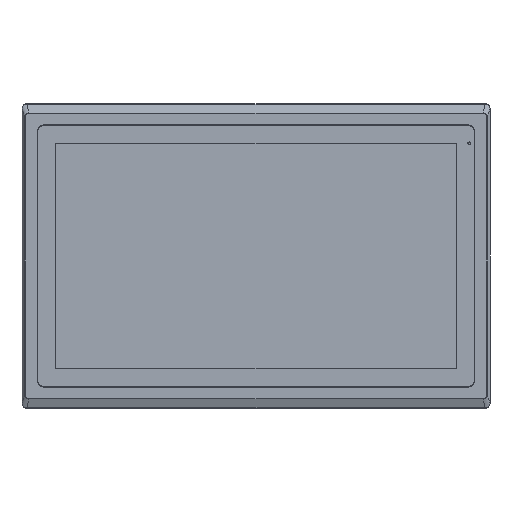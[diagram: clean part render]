
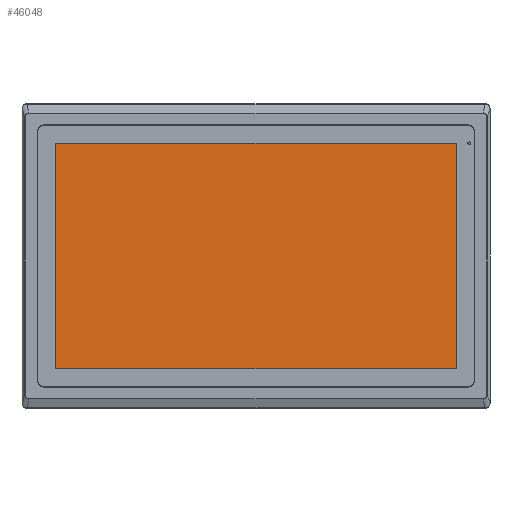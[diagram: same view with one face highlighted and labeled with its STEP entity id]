
A CAD part, top view. The second image highlights one B-rep face of the part: STEP entity #46048.
In plain terms, the highlighted planar face has unit normal (0, 0, 1).
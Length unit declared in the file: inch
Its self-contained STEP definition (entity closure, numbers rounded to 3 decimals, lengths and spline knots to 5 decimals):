
#523 = ORIENTED_EDGE ( 'NONE', *, *, #103460, .T. ) ;
#13892 = VECTOR ( 'NONE', #176523, 39.37008 ) ;
#14802 = ORIENTED_EDGE ( 'NONE', *, *, #132960, .T. ) ;
#25059 = DIRECTION ( 'NONE',  ( 0., 0., 1. ) ) ;
#35231 = VECTOR ( 'NONE', #112644, 39.37008 ) ;
#37444 = EDGE_CURVE ( 'NONE', #90845, #144990, #109135, .T. ) ;
#39975 = AXIS2_PLACEMENT_3D ( 'NONE', #114707, #25059, #130696 ) ;
#44018 = CARTESIAN_POINT ( 'NONE',  ( -11.71993, 0.87656, 1.89074 ) ) ;
#46048 = ADVANCED_FACE ( 'NONE', ( #117265 ), #115656, .T. ) ;
#55053 = EDGE_CURVE ( 'NONE', #145005, #90845, #112879, .T. ) ;
#61263 = VECTOR ( 'NONE', #108607, 39.37008 ) ;
#73548 = ORIENTED_EDGE ( 'NONE', *, *, #37444, .T. ) ;
#77014 = CARTESIAN_POINT ( 'NONE',  ( 7.0596, 6.162, 1.89074 ) ) ;
#81119 = ORIENTED_EDGE ( 'NONE', *, *, #55053, .T. ) ;
#90845 = VERTEX_POINT ( 'NONE', #185910 ) ;
#101169 = VERTEX_POINT ( 'NONE', #161653 ) ;
#103017 = DIRECTION ( 'NONE',  ( 0., -1., 0. ) ) ;
#103460 = EDGE_CURVE ( 'NONE', #144990, #101169, #176750, .T. ) ;
#108607 = DIRECTION ( 'NONE',  ( 0., 1., 0. ) ) ;
#108875 = CARTESIAN_POINT ( 'NONE',  ( 7.0596, 0.87656, 1.89074 ) ) ;
#109135 = LINE ( 'NONE', #108875, #61263 ) ;
#112644 = DIRECTION ( 'NONE',  ( 1., 0., 0. ) ) ;
#112805 = CARTESIAN_POINT ( 'NONE',  ( -2.33016, -4.40887, 1.89074 ) ) ;
#112879 = LINE ( 'NONE', #112805, #35231 ) ;
#114707 = CARTESIAN_POINT ( 'NONE',  ( -2.33016, 0.87656, 1.89074 ) ) ;
#115656 = PLANE ( 'NONE',  #39975 ) ;
#117265 = FACE_OUTER_BOUND ( 'NONE', #152606, .T. ) ;
#130696 = DIRECTION ( 'NONE',  ( 1., 0., 0. ) ) ;
#132960 = EDGE_CURVE ( 'NONE', #101169, #145005, #176852, .T. ) ;
#136313 = CARTESIAN_POINT ( 'NONE',  ( -11.71993, -4.40887, 1.89074 ) ) ;
#144990 = VERTEX_POINT ( 'NONE', #77014 ) ;
#145005 = VERTEX_POINT ( 'NONE', #136313 ) ;
#152606 = EDGE_LOOP ( 'NONE', ( #14802, #81119, #73548, #523 ) ) ;
#157045 = VECTOR ( 'NONE', #103017, 39.37008 ) ;
#161653 = CARTESIAN_POINT ( 'NONE',  ( -11.71993, 6.162, 1.89074 ) ) ;
#176523 = DIRECTION ( 'NONE',  ( -1., 0., 0. ) ) ;
#176558 = CARTESIAN_POINT ( 'NONE',  ( -2.33016, 6.162, 1.89074 ) ) ;
#176750 = LINE ( 'NONE', #176558, #13892 ) ;
#176852 = LINE ( 'NONE', #44018, #157045 ) ;
#185910 = CARTESIAN_POINT ( 'NONE',  ( 7.0596, -4.40887, 1.89074 ) ) ;
